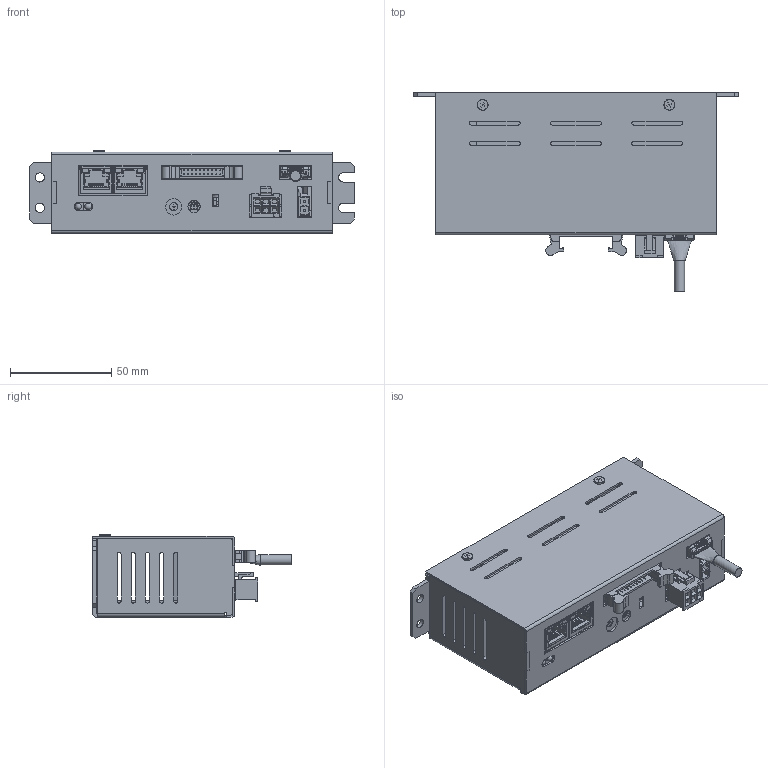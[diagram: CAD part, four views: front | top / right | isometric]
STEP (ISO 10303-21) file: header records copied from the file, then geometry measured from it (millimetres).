
FILE_DESCRIPTION( ( '' ), '1' );
FILE_NAME( 'F:/Users/VH/Desktop/Vincent-Data/202209/20220926/DSE23HMDA/DSE23HMDA_A2-20220927_VerA.stp', '2022-09-27T01:29:10', ( 'Dimamotor' ), ( 'Dimamotor' ), 'PSStep 17.0.49', ' ', ' ' );
FILE_SCHEMA( ( 'AUTOMOTIVE_DESIGN { 1 0 10303 214 1 1 1 1 }' ) );
Length unit declared in the file: millimetre
Products named in the file (51): 牛角20P-P2; 短耳; PCB-D_VerD; DSE23HMD-PCB-D_VerA; LED含座-G_AL-33-1R; C-1586041-2; C-1586041-4; 數字開關; 指撥開關-2P; 可變電阻; 壓板_VerD; 7078; LED含座-紅_AL-33-1R; PCB-E_VerD;     MSBR; 5023860970; DSE22HMD-PCB_VerA; Assem1; MEAA-D14-41_VerD; M3鉚釘-4.5高; A2; M3x25L_銅柱; M3x4L平頭; C-1586765-6; 5023800900
Assembly tree (82 placements, depth 5):
  Assem1
    MEAA-D14-41_VerD
    M3鉚釘-4.5高  x3
    A2
    M3x25L_銅柱  x3
    LED含座-紅_AL-33-1R
    M3x4L平頭  x2
    C-1586765-6
    5023800900
    DSE22HMD-PCB_VerA
      PCB-D_VerD
        DSE23HMD-PCB-D_VerA
        LED含座-G_AL-33-1R
        C-1586041-2
        C-1586041-4
        數字開關
        指撥開關-2P
        可變電阻
        壓板_VerD
        7078
        LED含座-紅_AL-33-1R
      PCB-E_VerD
            MSBR  x2
            MSBR  x2
            MSBR  x2
            MSBR  x2
            MSBR  x2
            MSBR  x2
            MSBR  x2
            MSBR  x2
            MSBR  x2
            MSBR  x2
            MSBR  x2
            MSBR  x2
            MSBR  x2
            MSBR  x2
            MSBR  x2
            MSBR  x2
            MSBR  x2
            MSBR  x2
            MSBR  x2
            MSBR  x2
            MSBR  x2
            MSBR  x2
            MSBR  x2
            MSBR  x2
            MSBR  x2
        5023860970
        PCB-E_VerD
        牛角20P-P2
          牛角20P-P2
          短耳  x2
Bounding box: 160 x 97.9 x 41.1 mm (x, y, z)
Volume: 95410.1 mm3; surface area: 131570.1 mm2
Topology: 78 solids, 78 shells, 4114 faces, 11235 edges, 7362 vertices
Faces by surface type: plane 3446, cylinder 586, bspline 44, cone 21, torus 10, sphere 7
Full cylindrical faces by diameter (mm): 0.6 x3, 0.644 x1, 0.7 x6, 0.8 x5, 0.827 x1, 1 x6, 1.052 x1, 1.5 x3, 1.6 x8, 1.605 x1, 1.704 x1, 2 x10, 2.459 x3, 2.5 x3, 3 x15, 3.2 x4, 3.39 x1, 3.4 x1, 4 x16, 4.2 x6, 4.5 x2, 5 x1, 5.35 x2, 6 x4, 8 x1
Entity records: 154802 total; most frequent: CARTESIAN_POINT 35679, ORIENTED_EDGE 17104, DIRECTION 15898, EDGE_CURVE 8552, LINE 7436, VECTOR 7436, VERTEX_POINT 5664, PRESENTATION_STYLE_ASSIGNMENT 5657
